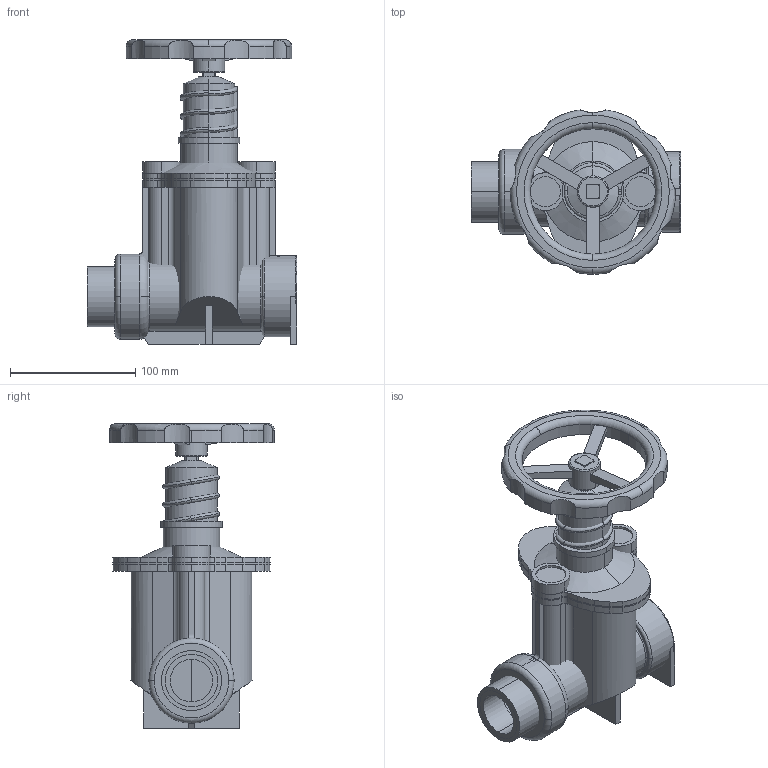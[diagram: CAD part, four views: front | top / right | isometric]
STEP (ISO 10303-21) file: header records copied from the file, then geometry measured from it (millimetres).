
FILE_DESCRIPTION(('STEP AP214'),'1');
FILE_NAME('S:/EK/USER/CAT6/3DHomepage_27-04-2012/neu_22-02-2013/2520/2520_PN16_DN40_7800_C0100027.STP','2013-02-26T12:16:42',(' '),(' '),'Spatial InterOp 3D',' ',' ');
FILE_SCHEMA(('automotive_design'));
Length unit declared in the file: millimetre
Products named in the file (40): 3D-Objekt
Bounding box: 167 x 131.2 x 243 mm (x, y, z)
Volume: 1226506.3 mm3; surface area: 273776.5 mm2
Topology: 40 solids, 40 shells, 377 faces, 893 edges, 605 vertices
Faces by surface type: cylinder 171, plane 160, torus 42, cone 4
Entity records: 15374 total; most frequent: DIRECTION 2220, CARTESIAN_POINT 2189, ORIENTED_EDGE 1786, AXIS2_PLACEMENT_3D 920, EDGE_CURVE 893, VERTEX_POINT 605, CIRCLE 493, STYLED_ITEM 417
